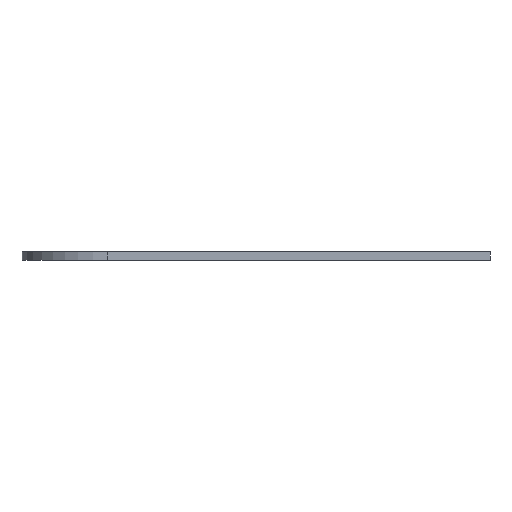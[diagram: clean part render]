
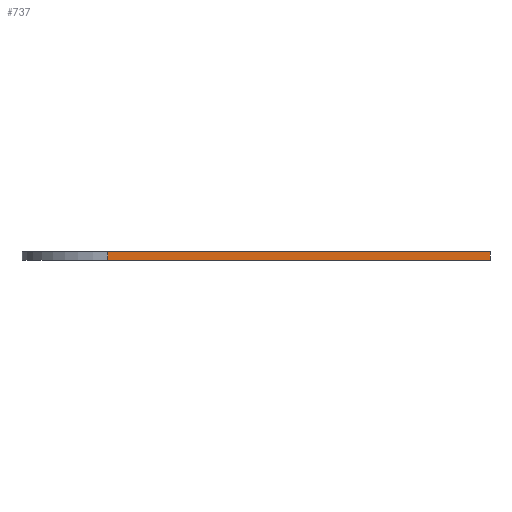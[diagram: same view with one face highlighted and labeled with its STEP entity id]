
A CAD part, front view. The second image highlights one B-rep face of the part: STEP entity #737.
In plain terms, the highlighted planar face has unit normal (0, -1, 0).
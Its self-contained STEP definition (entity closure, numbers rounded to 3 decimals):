
#6 = VERTEX_POINT ( 'NONE', #648 ) ;
#19 = ORIENTED_EDGE ( 'NONE', *, *, #354, .T. ) ;
#29 = CARTESIAN_POINT ( 'NONE',  ( 0., -26.9, -9.5 ) ) ;
#41 = EDGE_LOOP ( 'NONE', ( #894, #19, #448, #762 ) ) ;
#46 = CARTESIAN_POINT ( 'NONE',  ( 0., -26.9, 0.5 ) ) ;
#98 = CARTESIAN_POINT ( 'NONE',  ( -7.6, -26.9, 0.5 ) ) ;
#175 = EDGE_CURVE ( 'NONE', #396, #6, #261, .T. ) ;
#185 = DIRECTION ( 'NONE',  ( 0., 0., 1. ) ) ;
#261 = LINE ( 'NONE', #682, #978 ) ;
#270 = PLANE ( 'NONE',  #1027 ) ;
#273 = VERTEX_POINT ( 'NONE', #98 ) ;
#329 = DIRECTION ( 'NONE',  ( 0., 0., 1. ) ) ;
#354 = EDGE_CURVE ( 'NONE', #744, #273, #523, .T. ) ;
#357 = FACE_OUTER_BOUND ( 'NONE', #41, .T. ) ;
#362 = DIRECTION ( 'NONE',  ( 1., 0., 0. ) ) ;
#370 = DIRECTION ( 'NONE',  ( 0., -1., 0. ) ) ;
#396 = VERTEX_POINT ( 'NONE', #547 ) ;
#418 = LINE ( 'NONE', #1095, #955 ) ;
#448 = ORIENTED_EDGE ( 'NONE', *, *, #537, .F. ) ;
#453 = CARTESIAN_POINT ( 'NONE',  ( -7.6, -26.9, -9.5 ) ) ;
#470 = DIRECTION ( 'NONE',  ( 1., 0., 0. ) ) ;
#523 = LINE ( 'NONE', #453, #614 ) ;
#537 = EDGE_CURVE ( 'NONE', #6, #273, #576, .T. ) ;
#547 = CARTESIAN_POINT ( 'NONE',  ( -29.9, -26.9, 0. ) ) ;
#550 = VECTOR ( 'NONE', #470, 1000. ) ;
#576 = LINE ( 'NONE', #46, #550 ) ;
#614 = VECTOR ( 'NONE', #185, 1000. ) ;
#624 = CARTESIAN_POINT ( 'NONE',  ( -7.6, -26.9, 0. ) ) ;
#626 = EDGE_CURVE ( 'NONE', #396, #744, #418, .T. ) ;
#648 = CARTESIAN_POINT ( 'NONE',  ( -29.9, -26.9, 0.5 ) ) ;
#682 = CARTESIAN_POINT ( 'NONE',  ( -29.9, -26.9, -9.5 ) ) ;
#737 = ADVANCED_FACE ( 'NONE', ( #357 ), #270, .T. ) ;
#744 = VERTEX_POINT ( 'NONE', #624 ) ;
#762 = ORIENTED_EDGE ( 'NONE', *, *, #175, .F. ) ;
#894 = ORIENTED_EDGE ( 'NONE', *, *, #626, .T. ) ;
#919 = DIRECTION ( 'NONE',  ( 1., 0., 0. ) ) ;
#955 = VECTOR ( 'NONE', #919, 1000. ) ;
#978 = VECTOR ( 'NONE', #329, 1000. ) ;
#1027 = AXIS2_PLACEMENT_3D ( 'NONE', #29, #370, #362 ) ;
#1095 = CARTESIAN_POINT ( 'NONE',  ( 0., -26.9, 0. ) ) ;
